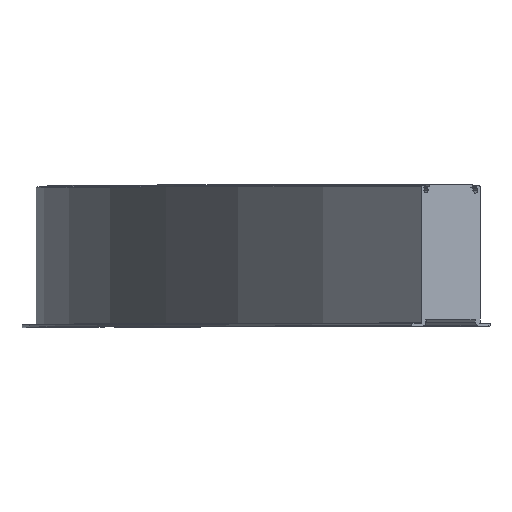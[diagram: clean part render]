
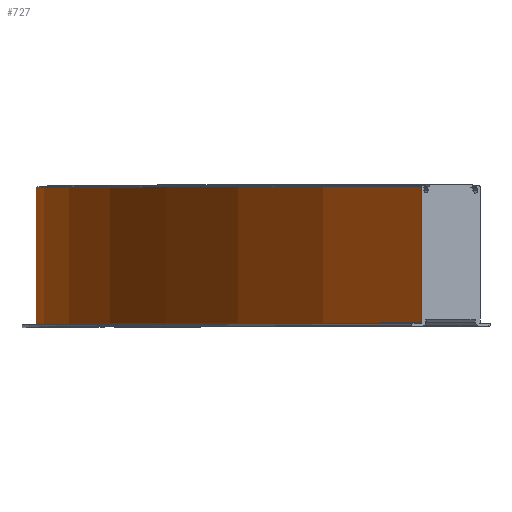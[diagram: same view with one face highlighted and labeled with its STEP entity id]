
A CAD part, top view. The second image highlights one B-rep face of the part: STEP entity #727.
In plain terms, the highlighted cylindrical face has radius 748.5 mm (diameter 1497 mm), a partial arc.
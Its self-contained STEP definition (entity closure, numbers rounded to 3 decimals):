
#29 = VERTEX_POINT ( 'NONE', #1687 ) ;
#143 = ORIENTED_EDGE ( 'NONE', *, *, #1109, .F. ) ;
#221 = CARTESIAN_POINT ( 'NONE',  ( 725., 1.8, 0. ) ) ;
#245 = CARTESIAN_POINT ( 'NONE',  ( 725., 0., 0. ) ) ;
#302 = DIRECTION ( 'NONE',  ( 0., -1., 0. ) ) ;
#304 = LINE ( 'NONE', #664, #1636 ) ;
#314 = AXIS2_PLACEMENT_3D ( 'NONE', #245, #698, #1883 ) ;
#367 = CIRCLE ( 'NONE', #613, 748.5 ) ;
#462 = EDGE_CURVE ( 'NONE', #29, #1288, #935, .T. ) ;
#597 = VECTOR ( 'NONE', #302, 1000. ) ;
#613 = AXIS2_PLACEMENT_3D ( 'NONE', #221, #1410, #983 ) ;
#664 = CARTESIAN_POINT ( 'NONE',  ( 195.731, 1.8, 529.269 ) ) ;
#698 = DIRECTION ( 'NONE',  ( 0., 1., 0. ) ) ;
#701 = EDGE_CURVE ( 'NONE', #945, #899, #304, .T. ) ;
#702 = CARTESIAN_POINT ( 'NONE',  ( 195.731, 79.5, 529.269 ) ) ;
#727 = ADVANCED_FACE ( 'NONE', ( #771 ), #1278, .T. ) ;
#766 = CARTESIAN_POINT ( 'NONE',  ( -23.5, 1.8, 0. ) ) ;
#771 = FACE_OUTER_BOUND ( 'NONE', #1884, .T. ) ;
#883 = AXIS2_PLACEMENT_3D ( 'NONE', #1908, #1637, #1470 ) ;
#899 = VERTEX_POINT ( 'NONE', #1198 ) ;
#935 = LINE ( 'NONE', #766, #597 ) ;
#945 = VERTEX_POINT ( 'NONE', #702 ) ;
#983 = DIRECTION ( 'NONE',  ( -1., 0., 0. ) ) ;
#1109 = EDGE_CURVE ( 'NONE', #29, #945, #1696, .T. ) ;
#1198 = CARTESIAN_POINT ( 'NONE',  ( 195.731, 1.8, 529.269 ) ) ;
#1207 = CARTESIAN_POINT ( 'NONE',  ( -23.5, 1.8, 0. ) ) ;
#1212 = ORIENTED_EDGE ( 'NONE', *, *, #1580, .T. ) ;
#1253 = ORIENTED_EDGE ( 'NONE', *, *, #701, .F. ) ;
#1278 = CYLINDRICAL_SURFACE ( 'NONE', #314, 748.5 ) ;
#1288 = VERTEX_POINT ( 'NONE', #1207 ) ;
#1410 = DIRECTION ( 'NONE',  ( 0., 1., 0. ) ) ;
#1413 = ORIENTED_EDGE ( 'NONE', *, *, #462, .T. ) ;
#1470 = DIRECTION ( 'NONE',  ( -1., 0., 0. ) ) ;
#1580 = EDGE_CURVE ( 'NONE', #1288, #899, #367, .T. ) ;
#1636 = VECTOR ( 'NONE', #1699, 1000. ) ;
#1637 = DIRECTION ( 'NONE',  ( 0., 1., 0. ) ) ;
#1687 = CARTESIAN_POINT ( 'NONE',  ( -23.5, 79.5, 0. ) ) ;
#1696 = CIRCLE ( 'NONE', #883, 748.5 ) ;
#1699 = DIRECTION ( 'NONE',  ( 0., -1., 0. ) ) ;
#1883 = DIRECTION ( 'NONE',  ( 0., 0., 1. ) ) ;
#1884 = EDGE_LOOP ( 'NONE', ( #1212, #1253, #143, #1413 ) ) ;
#1908 = CARTESIAN_POINT ( 'NONE',  ( 725., 79.5, 0. ) ) ;
